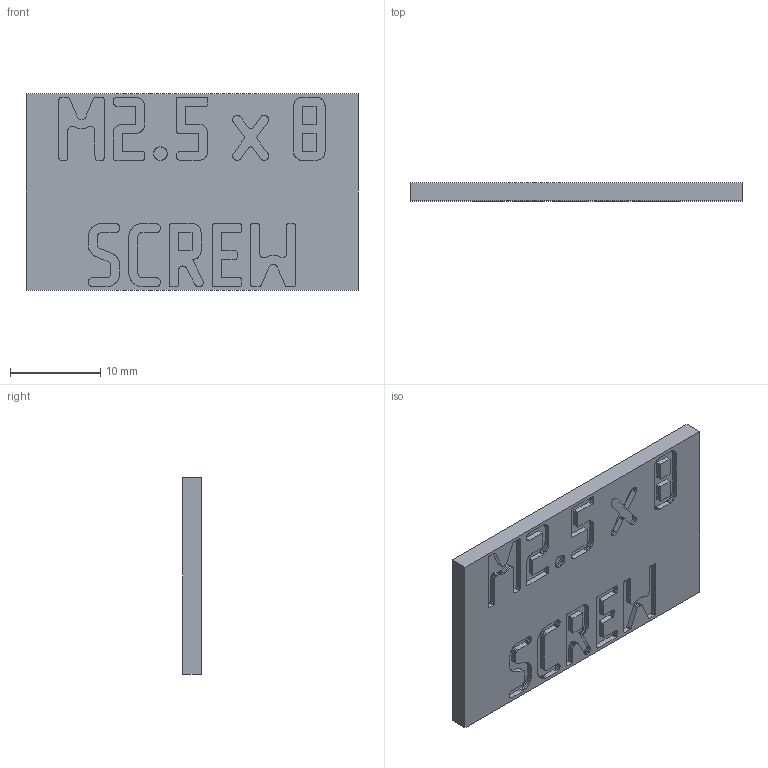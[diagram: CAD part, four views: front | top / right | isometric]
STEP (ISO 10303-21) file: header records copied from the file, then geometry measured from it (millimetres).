
FILE_DESCRIPTION(('Open CASCADE Model'),'2;1');
FILE_NAME('Open CASCADE Shape Model','2026-11-03T17:10:07',('Author'),( 'Open CASCADE'),'Open CASCADE STEP processor 8.0','build123d', 'Unknown');
FILE_SCHEMA(('AUTOMOTIVE_DESIGN { 1 0 10303 214 1 1 1 1 }'));
Length unit declared in the file: millimetre
Products named in the file (2): =>[0:1:1:2]; COMPOUND
Assembly tree (1 placements, depth 2):
  =>[0:1:1:2]
    COMPOUND
Bounding box: 36.8 x 2 x 21.8 mm (x, y, z)
Volume: 1514.1 mm3; surface area: 2015.3 mm2
Topology: 1 solids, 1 shells, 1152 faces, 3408 edges, 2272 vertices
Faces by surface type: plane 1152
Entity records: 81984 total; most frequent: CARTESIAN_POINT 13650, DIRECTION 12532, LINE 10224, VECTOR 10224, ORIENTED_EDGE 6816, PCURVE 6816, DEFINITIONAL_REPRESENTATION 6816, EDGE_CURVE 3408
